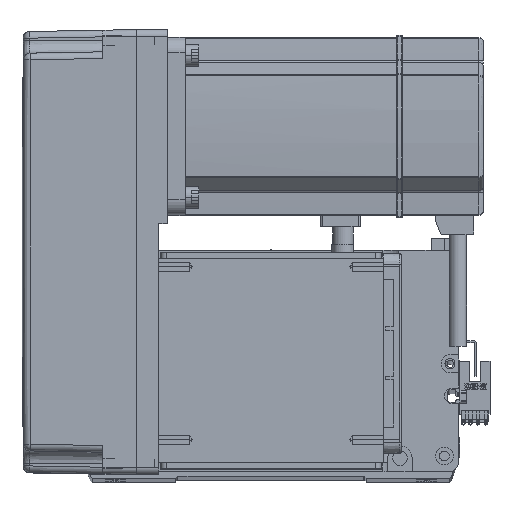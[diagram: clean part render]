
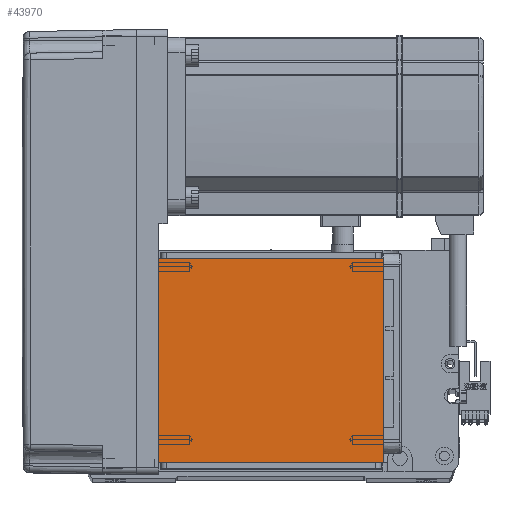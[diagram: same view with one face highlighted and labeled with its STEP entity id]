
A CAD part, top view. The second image highlights one B-rep face of the part: STEP entity #43970.
In plain terms, the highlighted planar face has unit normal (0, 0, 1).
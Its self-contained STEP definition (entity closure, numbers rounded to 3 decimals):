
#609 = FACE_OUTER_BOUND ( 'NONE', #42013, .T. ) ;
#3769 = AXIS2_PLACEMENT_3D ( 'NONE', #36120, #9428, #49092 ) ;
#4188 = CARTESIAN_POINT ( 'NONE',  ( 50.5, 20., 115. ) ) ;
#6082 = EDGE_CURVE ( 'NONE', #15700, #49539, #26925, .T. ) ;
#9059 = ORIENTED_EDGE ( 'NONE', *, *, #19842, .T. ) ;
#9428 = DIRECTION ( 'NONE',  ( 0., 0., 1. ) ) ;
#13688 = DIRECTION ( 'NONE',  ( -1., 0., 0. ) ) ;
#15700 = VERTEX_POINT ( 'NONE', #4188 ) ;
#15746 = CARTESIAN_POINT ( 'NONE',  ( -70.004, 111.5, 115. ) ) ;
#17737 = EDGE_CURVE ( 'NONE', #15700, #28604, #30562, .T. ) ;
#19842 = EDGE_CURVE ( 'NONE', #50120, #28604, #40786, .T. ) ;
#22047 = CARTESIAN_POINT ( 'NONE',  ( -50.5, 111.5, 115. ) ) ;
#22179 = EDGE_CURVE ( 'NONE', #50120, #49539, #50402, .T. ) ;
#22378 = VECTOR ( 'NONE', #47016, 1000. ) ;
#23417 = VECTOR ( 'NONE', #55551, 1000. ) ;
#23541 = VECTOR ( 'NONE', #13688, 1000. ) ;
#26202 = CARTESIAN_POINT ( 'NONE',  ( 50.5, 111.5, 115. ) ) ;
#26925 = LINE ( 'NONE', #37479, #23417 ) ;
#26992 = PLANE ( 'NONE',  #3769 ) ;
#28604 = VERTEX_POINT ( 'NONE', #42845 ) ;
#30017 = DIRECTION ( 'NONE',  ( 0., -1., 0. ) ) ;
#30562 = LINE ( 'NONE', #35517, #23541 ) ;
#35517 = CARTESIAN_POINT ( 'NONE',  ( -70.004, 20., 115. ) ) ;
#35874 = ORIENTED_EDGE ( 'NONE', *, *, #22179, .F. ) ;
#36120 = CARTESIAN_POINT ( 'NONE',  ( 0., 0., 115. ) ) ;
#37479 = CARTESIAN_POINT ( 'NONE',  ( 50.5, 122., 115. ) ) ;
#37973 = VECTOR ( 'NONE', #30017, 1000. ) ;
#40786 = LINE ( 'NONE', #43445, #37973 ) ;
#42013 = EDGE_LOOP ( 'NONE', ( #35874, #9059, #57312, #46706 ) ) ;
#42845 = CARTESIAN_POINT ( 'NONE',  ( -50.5, 20., 115. ) ) ;
#43445 = CARTESIAN_POINT ( 'NONE',  ( -50.5, 122., 115. ) ) ;
#43970 = ADVANCED_FACE ( 'NONE', ( #609 ), #26992, .T. ) ;
#46706 = ORIENTED_EDGE ( 'NONE', *, *, #6082, .T. ) ;
#47016 = DIRECTION ( 'NONE',  ( 1., 0., 0. ) ) ;
#49092 = DIRECTION ( 'NONE',  ( 1., 0., 0. ) ) ;
#49539 = VERTEX_POINT ( 'NONE', #26202 ) ;
#50120 = VERTEX_POINT ( 'NONE', #22047 ) ;
#50402 = LINE ( 'NONE', #15746, #22378 ) ;
#55551 = DIRECTION ( 'NONE',  ( 0., 1., 0. ) ) ;
#57312 = ORIENTED_EDGE ( 'NONE', *, *, #17737, .F. ) ;
